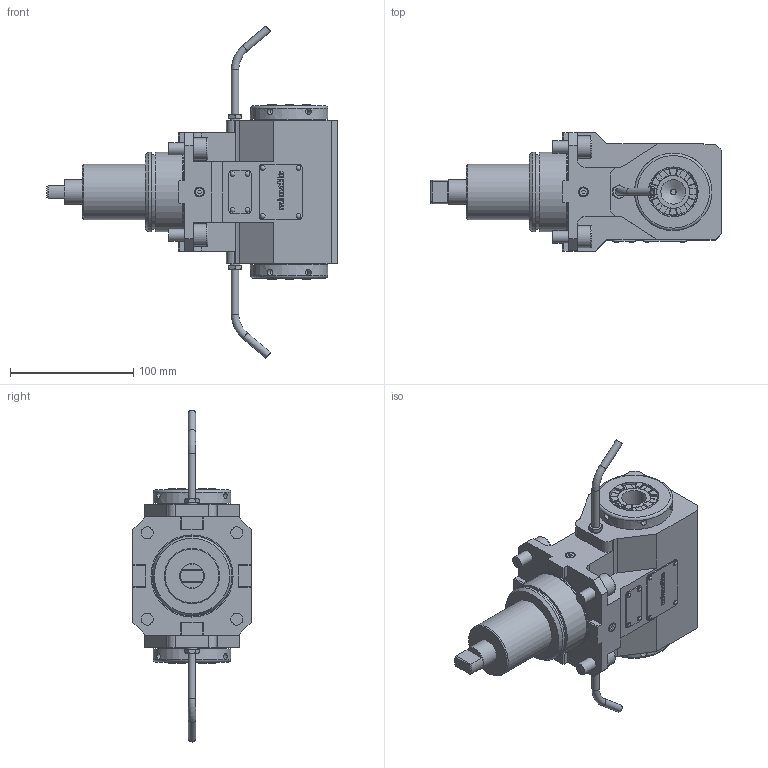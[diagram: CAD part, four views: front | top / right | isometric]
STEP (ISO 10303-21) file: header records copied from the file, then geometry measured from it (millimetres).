
FILE_DESCRIPTION(/* description */ (''),/* implementation_level */ '2;1');
FILE_NAME(/* name */ '00059942-UNI',/* time_stamp */ '2021-12-17T08:25:09+01:00',/* author */ (''),/* organization */ (''),/* preprocessor_version */ 'ST-DEVELOPER v16.5',/* originating_system */ 'HiCAD 2017 2201.0 Build 268',/* authorisation */ '');
FILE_SCHEMA (('AUTOMOTIVE_DESIGN { 1 0 10303 214 1 1 1 1 }'));
Products named in the file (2): Root; Leeres Teil
Assembly tree (1 placements, depth 2):
  Root
    Leeres Teil
Bounding box: 236 x 96 x 269.83 mm (x, y, z)
Volume: 1232328.2 mm3; surface area: 124794.4 mm2
Topology: 1 solids, 9 shells, 777 faces, 2000 edges, 1315 vertices
Faces by surface type: plane 424, cylinder 247, torus 42, cone 36, bspline 20, sphere 8
Full cylindrical faces by diameter (mm): 2 x8, 2.2 x8, 4 x4, 4.773 x2, 5.1 x6, 5.2 x6, 6 x4, 7 x4, 8 x4, 8.773 x2, 9.853 x4, 12 x4, 18 x4, 20 x3, 23.5 x2, 27 x2, 29 x2, 38.16 x2, 40 x2, 40.5 x1, 45 x1, 55 x2, 60.8 x1, 63 x2, 64.5 x1, 64.9 x2
Entity records: 53558 total; most frequent: CARTESIAN_POINT 18233, PRESENTATION_STYLE_ASSIGNMENT 3583, DRAUGHTING_PRE_DEFINED_CURVE_FONT 3582, CURVE_STYLE 3582, OVER_RIDING_STYLED_ITEM 3582, ORIENTED_EDGE 3582, COLOUR_RGB 3578, DIRECTION 3512
